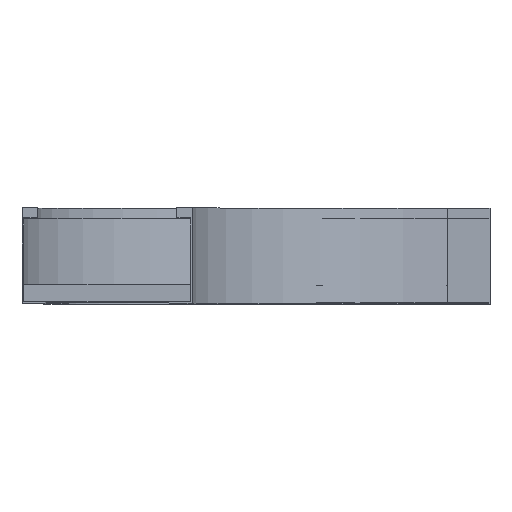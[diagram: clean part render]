
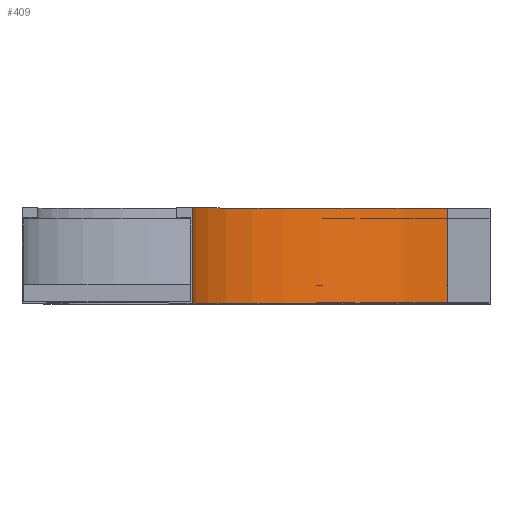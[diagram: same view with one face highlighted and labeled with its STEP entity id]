
A CAD part, top view. The second image highlights one B-rep face of the part: STEP entity #409.
In plain terms, the highlighted cylindrical face has radius 300 mm (diameter 600 mm), a partial arc.
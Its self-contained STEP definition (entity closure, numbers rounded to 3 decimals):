
#1 = CARTESIAN_POINT ( 'NONE',  ( 300., 112.5, -350. ) ) ;
#17 = CIRCLE ( 'NONE', #1180, 300. ) ;
#35 = CARTESIAN_POINT ( 'NONE',  ( 300., 0., -50. ) ) ;
#47 = VECTOR ( 'NONE', #1522, 1000. ) ;
#82 = AXIS2_PLACEMENT_3D ( 'NONE', #790, #1493, #933 ) ;
#94 = EDGE_CURVE ( 'NONE', #442, #362, #509, .T. ) ;
#149 = ORIENTED_EDGE ( 'NONE', *, *, #410, .T. ) ;
#215 = VERTEX_POINT ( 'NONE', #1 ) ;
#341 = ORIENTED_EDGE ( 'NONE', *, *, #1087, .T. ) ;
#362 = VERTEX_POINT ( 'NONE', #494 ) ;
#409 = ADVANCED_FACE ( 'NONE', ( #1212 ), #925, .F. ) ;
#410 = EDGE_CURVE ( 'NONE', #442, #1469, #1756, .T. ) ;
#417 = CARTESIAN_POINT ( 'NONE',  ( 300., 0., -350. ) ) ;
#442 = VERTEX_POINT ( 'NONE', #1479 ) ;
#494 = CARTESIAN_POINT ( 'NONE',  ( 0., 112.5, -50. ) ) ;
#509 = LINE ( 'NONE', #1676, #47 ) ;
#595 = DIRECTION ( 'NONE',  ( 0., -1., 0. ) ) ;
#616 = DIRECTION ( 'NONE',  ( 0., -1., 0. ) ) ;
#790 = CARTESIAN_POINT ( 'NONE',  ( 300., 0., -50. ) ) ;
#886 = CARTESIAN_POINT ( 'NONE',  ( 300., 0., -350. ) ) ;
#925 = CYLINDRICAL_SURFACE ( 'NONE', #1572, 300. ) ;
#933 = DIRECTION ( 'NONE',  ( -1., 0., 0. ) ) ;
#1052 = DIRECTION ( 'NONE',  ( -1., 0., 0. ) ) ;
#1087 = EDGE_CURVE ( 'NONE', #1469, #215, #1766, .T. ) ;
#1173 = CARTESIAN_POINT ( 'NONE',  ( 300., 112.5, -50. ) ) ;
#1180 = AXIS2_PLACEMENT_3D ( 'NONE', #1173, #595, #1052 ) ;
#1208 = DIRECTION ( 'NONE',  ( 0., 1., 0. ) ) ;
#1212 = FACE_OUTER_BOUND ( 'NONE', #1605, .T. ) ;
#1290 = ORIENTED_EDGE ( 'NONE', *, *, #1404, .F. ) ;
#1404 = EDGE_CURVE ( 'NONE', #362, #215, #17, .T. ) ;
#1450 = VECTOR ( 'NONE', #1208, 1000. ) ;
#1469 = VERTEX_POINT ( 'NONE', #417 ) ;
#1479 = CARTESIAN_POINT ( 'NONE',  ( 0., 0., -50. ) ) ;
#1487 = DIRECTION ( 'NONE',  ( 0., 0., -1. ) ) ;
#1493 = DIRECTION ( 'NONE',  ( 0., -1., 0. ) ) ;
#1522 = DIRECTION ( 'NONE',  ( 0., 1., 0. ) ) ;
#1572 = AXIS2_PLACEMENT_3D ( 'NONE', #35, #616, #1487 ) ;
#1605 = EDGE_LOOP ( 'NONE', ( #1290, #1769, #149, #341 ) ) ;
#1676 = CARTESIAN_POINT ( 'NONE',  ( 0., 0., -50. ) ) ;
#1756 = CIRCLE ( 'NONE', #82, 300. ) ;
#1766 = LINE ( 'NONE', #886, #1450 ) ;
#1769 = ORIENTED_EDGE ( 'NONE', *, *, #94, .F. ) ;
